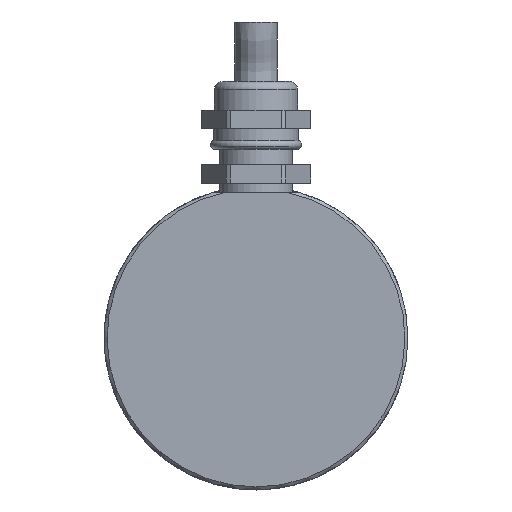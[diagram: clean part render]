
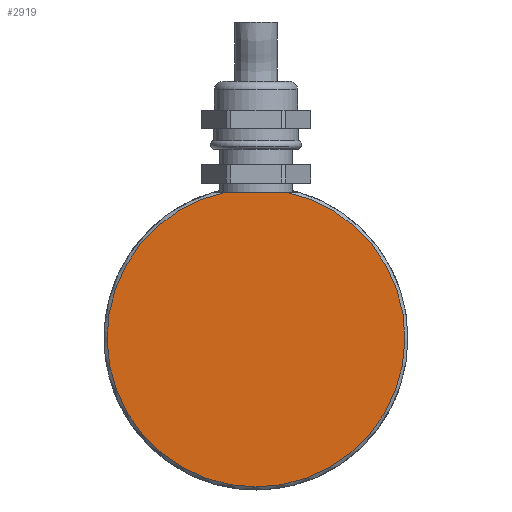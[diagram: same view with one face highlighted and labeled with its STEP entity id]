
A CAD part, left-side view. The second image highlights one B-rep face of the part: STEP entity #2919.
In plain terms, the highlighted planar face has unit normal (-1, 0, 0).
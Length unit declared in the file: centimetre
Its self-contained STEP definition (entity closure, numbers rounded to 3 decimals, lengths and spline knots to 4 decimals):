
#1670=VERTEX_POINT('',#8984);
#1673=VERTEX_POINT('',#8991);
#1849=EDGE_CURVE('',#1673,#1670,#3028,.T.);
#1854=EDGE_CURVE('',#1673,#1670,#3611,.T.);
#2417=ORIENTED_EDGE('',*,*,#1849,.F.);
#2418=ORIENTED_EDGE('',*,*,#1854,.T.);
#2667=EDGE_LOOP('',(#2417,#2418));
#2797=FACE_BOUND('',#2667,.T.);
#2919=ADVANCED_FACE('',(#2797),#8160,.T.);
#3028=CIRCLE('',#7591,2.45);
#3611=LINE('',#9001,#7954);
#7591=AXIS2_PLACEMENT_3D('',#8992,#11097,#11098);
#7689=AXIS2_PLACEMENT_3D('',#10332,#11322,$);
#7954=VECTOR('',#11105,1.);
#8160=PLANE('',#7689);
#8984=CARTESIAN_POINT('',(0.,0.4924,2.4));
#8991=CARTESIAN_POINT('',(0.,-0.4924,2.4));
#8992=CARTESIAN_POINT('',(0.,0.,0.));
#9001=CARTESIAN_POINT('',(0.,2.775,2.4));
#10332=CARTESIAN_POINT('',(0.,0.,-1.25));
#11097=DIRECTION('',(1.,0.,0.));
#11098=DIRECTION('',(0.,0.,-2.45));
#11105=DIRECTION('',(0.,1.,0.));
#11322=DIRECTION('',(-1.,0.,0.));
